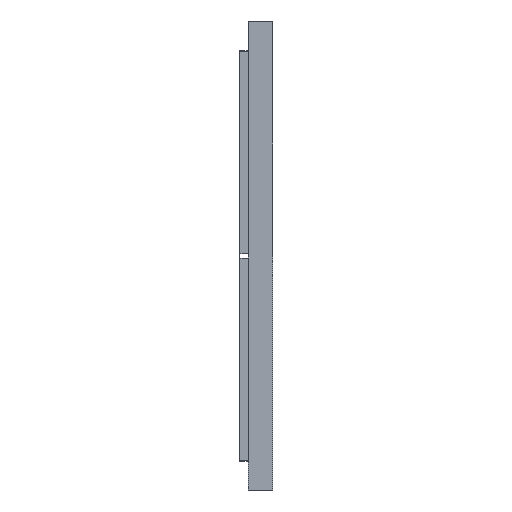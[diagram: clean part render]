
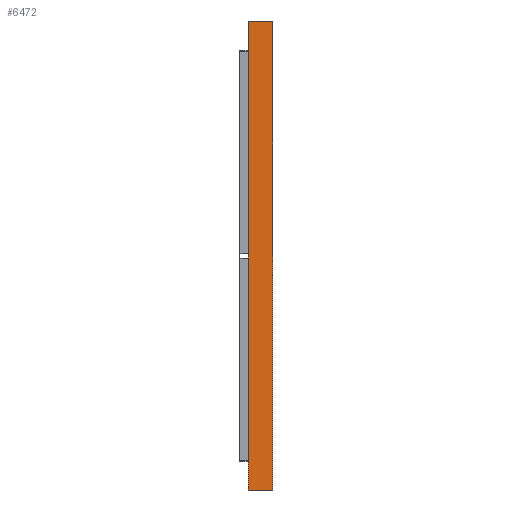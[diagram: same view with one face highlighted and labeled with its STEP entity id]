
A CAD part, left-side view. The second image highlights one B-rep face of the part: STEP entity #6472.
In plain terms, the highlighted planar face has unit normal (-1, 0, 0).
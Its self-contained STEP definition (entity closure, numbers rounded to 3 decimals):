
#1449=DIRECTION('',(0.,1.,0.));
#1450=VECTOR('',#1449,12.);
#1451=CARTESIAN_POINT('',(-255.65,0.,115.));
#1452=LINE('',#1451,#1450);
#1453=DIRECTION('',(0.,0.,1.));
#1454=VECTOR('',#1453,230.);
#1455=CARTESIAN_POINT('',(-255.65,0.,-115.));
#1456=LINE('',#1455,#1454);
#1457=DIRECTION('',(0.,-1.,0.));
#1458=VECTOR('',#1457,12.);
#1459=CARTESIAN_POINT('',(-255.65,12.,-115.));
#1460=LINE('',#1459,#1458);
#1461=DIRECTION('',(0.,0.,-1.));
#1462=VECTOR('',#1461,230.);
#1463=CARTESIAN_POINT('',(-255.65,12.,115.));
#1464=LINE('',#1463,#1462);
#4177=CARTESIAN_POINT('',(-255.65,0.,115.));
#4178=CARTESIAN_POINT('',(-255.65,12.,115.));
#4179=VERTEX_POINT('',#4177);
#4180=VERTEX_POINT('',#4178);
#4181=CARTESIAN_POINT('',(-255.65,12.,-115.));
#4182=VERTEX_POINT('',#4181);
#4183=CARTESIAN_POINT('',(-255.65,0.,-115.));
#4184=VERTEX_POINT('',#4183);
#6461=CARTESIAN_POINT('',(-255.65,0.,0.));
#6462=DIRECTION('',(-1.,0.,0.));
#6463=DIRECTION('',(0.,-1.,0.));
#6464=AXIS2_PLACEMENT_3D('',#6461,#6462,#6463);
#6465=PLANE('',#6464);
#6466=ORIENTED_EDGE('',*,*,#5537,.F.);
#6467=ORIENTED_EDGE('',*,*,#5552,.F.);
#6468=ORIENTED_EDGE('',*,*,#5674,.F.);
#6469=ORIENTED_EDGE('',*,*,#5687,.F.);
#6470=EDGE_LOOP('',(#6466,#6467,#6468,#6469));
#6471=FACE_OUTER_BOUND('',#6470,.F.);
#6472=ADVANCED_FACE('',(#6471),#6465,.T.);
#5537=EDGE_CURVE('',#4179,#4180,#1452,.T.);
#5552=EDGE_CURVE('',#4184,#4179,#1456,.T.);
#5674=EDGE_CURVE('',#4182,#4184,#1460,.T.);
#5687=EDGE_CURVE('',#4180,#4182,#1464,.T.);
